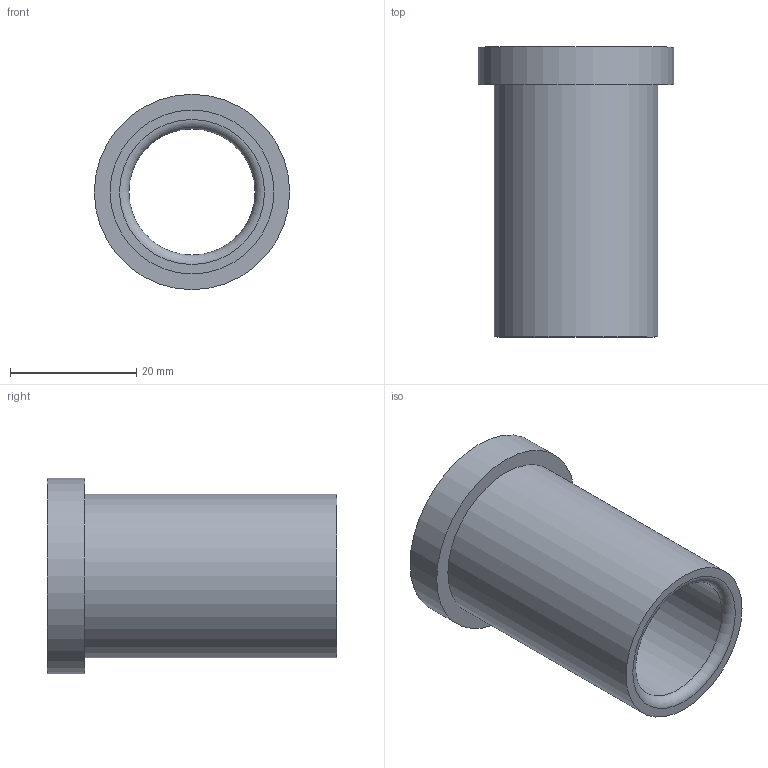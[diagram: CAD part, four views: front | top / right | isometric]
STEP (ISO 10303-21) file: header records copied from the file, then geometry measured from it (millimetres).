
FILE_DESCRIPTION(/* description */ ('STEP AP214'),/* implementation_level */ '2;1');
FILE_NAME(/* name */ '03_12_17924',/* time_stamp */ '2023-06-15T11:35:31+02:00',/* author */ ('License CC BY-ND 4.0'),/* organization */ ('CADENAS'),/* preprocessor_version */ 'ST-DEVELOPER v19.3',/* originating_system */ 'PARTsolutions',/* authorisation */ ' ');
FILE_SCHEMA (('AUTOMOTIVE_DESIGN {1 0 10303 214 3 1 1}'));
Length unit declared in the file: millimetre
Products named in the file (1): VA_Bushing_17924
Bounding box: 31 x 46 x 31 mm (x, y, z)
Volume: 11074.8 mm3; surface area: 7560.3 mm2
Topology: 1 solids, 1 shells, 10 faces, 16 edges, 10 vertices
Faces by surface type: cylinder 4, plane 4, torus 2
Full cylindrical faces by diameter (mm): 20 x1, 20.6 x1, 26 x1, 31 x1
Entity records: 302 total; most frequent: DIRECTION 42, CARTESIAN_POINT 31, AXIS2_PLACEMENT_3D 21, ORIENTED_EDGE 20, EDGE_LOOP 20, FACE_BOUND 20, EDGE_CURVE 10, VERTEX_POINT 10
